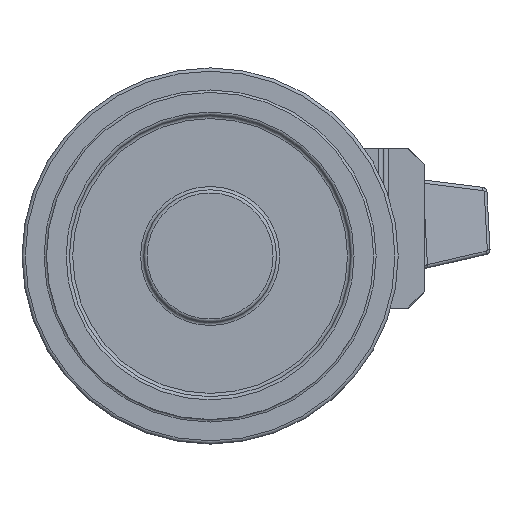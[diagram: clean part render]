
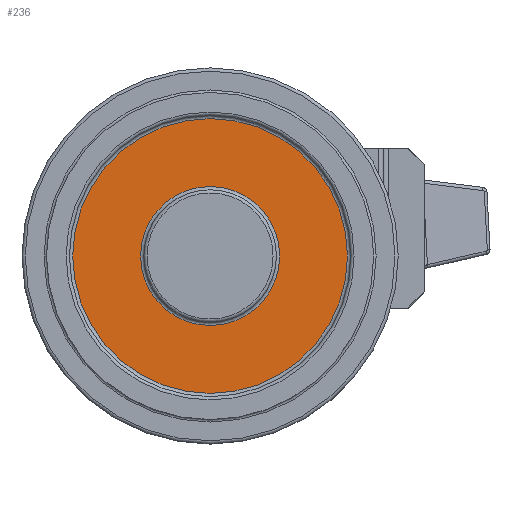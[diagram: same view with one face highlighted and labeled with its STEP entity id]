
A CAD part, front view. The second image highlights one B-rep face of the part: STEP entity #236.
In plain terms, the highlighted planar face has unit normal (0, -1, 0).
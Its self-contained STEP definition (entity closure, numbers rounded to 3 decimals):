
#236=ADVANCED_FACE('',(#1776,#1777),#1778,.T.);
#1776=FACE_BOUND('',#5481,.T.);
#1777=FACE_OUTER_BOUND('',#5482,.T.);
#1778=PLANE('',#5483);
#5481=EDGE_LOOP('',(#13106));
#5482=EDGE_LOOP('',(#13107));
#5483=AXIS2_PLACEMENT_3D('',#13108,#13109,#13110);
#13106=ORIENTED_EDGE('',*,*,#42483,.T.);
#13107=ORIENTED_EDGE('',*,*,#42724,.T.);
#13108=CARTESIAN_POINT('',(0.0,28.5,0.));
#13109=DIRECTION('',(0.0,-1.0,0.));
#13110=DIRECTION('',(0.0,0.,1.0));
#42483=EDGE_CURVE('',#50317,#50317,#50318,.T.);
#42724=EDGE_CURVE('',#50760,#50760,#50761,.T.);
#50317=VERTEX_POINT('',#56912);
#50318=CIRCLE('',#56913,42.5);
#50760=VERTEX_POINT('',#57541);
#50761=CIRCLE('',#57542,84.0);
#56912=CARTESIAN_POINT('',(-42.5,28.5,0.));
#56913=AXIS2_PLACEMENT_3D('',#68965,#68966,#68967);
#57541=CARTESIAN_POINT('',(-84.0,28.5,0.));
#57542=AXIS2_PLACEMENT_3D('',#69346,#69347,#69348);
#68965=CARTESIAN_POINT('',(0.0,28.5,0.));
#68966=DIRECTION('',(0.0,1.0,0.));
#68967=DIRECTION('',(-1.0,0.0,0.0));
#69346=CARTESIAN_POINT('',(0.0,28.5,0.));
#69347=DIRECTION('',(-0.0,-1.0,0.));
#69348=DIRECTION('',(-1.0,0.0,0.0));
